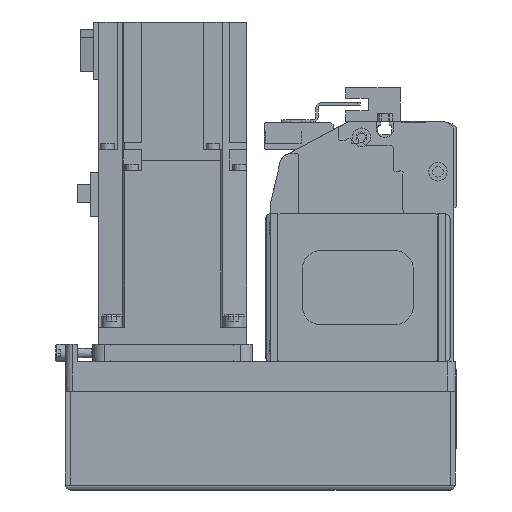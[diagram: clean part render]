
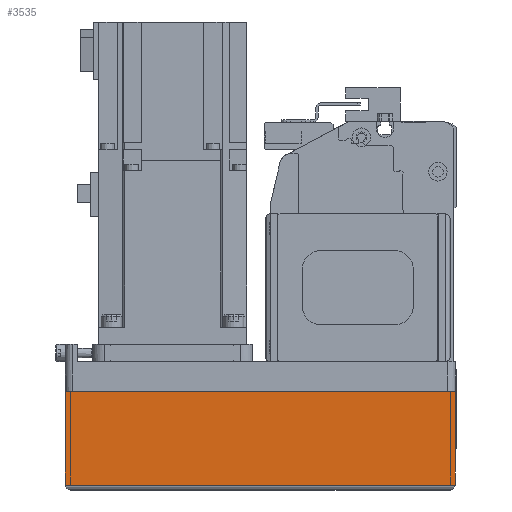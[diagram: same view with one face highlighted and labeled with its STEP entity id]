
A CAD part, left-side view. The second image highlights one B-rep face of the part: STEP entity #3535.
In plain terms, the highlighted planar face has unit normal (-1, 0, 0) as drawn and (0, -1, 0) by its records, which use the part's own axes.
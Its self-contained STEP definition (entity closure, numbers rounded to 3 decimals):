
#3535 = ADVANCED_FACE( '', ( #7414 ), #7415, .T. );
#7414 = FACE_OUTER_BOUND( '', #11279, .T. );
#7415 = PLANE( '', #11280 );
#11279 = EDGE_LOOP( '', ( #21112, #21113, #21114, #21115 ) );
#11280 = AXIS2_PLACEMENT_3D( '', #21116, #21117, #21118 );
#21112 = ORIENTED_EDGE( '', *, *, #24790, .F. );
#21113 = ORIENTED_EDGE( '', *, *, #24498, .F. );
#21114 = ORIENTED_EDGE( '', *, *, #22188, .T. );
#21115 = ORIENTED_EDGE( '', *, *, #25144, .T. );
#21116 = CARTESIAN_POINT( '', ( -158., -39., -12.1 ) );
#21117 = DIRECTION( '', ( 0., -1., 0. ) );
#21118 = DIRECTION( '', ( 0., 0., -1. ) );
#22188 = EDGE_CURVE( '', #26692, #26696, #26698, .T. );
#24498 = EDGE_CURVE( '', #26692, #25776, #30149, .T. );
#24790 = EDGE_CURVE( '', #25776, #28798, #30492, .T. );
#25144 = EDGE_CURVE( '', #26696, #28798, #30876, .T. );
#25776 = VERTEX_POINT( '', #31800 );
#26692 = VERTEX_POINT( '', #33395 );
#26696 = VERTEX_POINT( '', #33401 );
#26698 = LINE( '', #33404, #33405 );
#28798 = VERTEX_POINT( '', #36883 );
#30149 = LINE( '', #39135, #39136 );
#30492 = LINE( '', #39617, #39618 );
#30876 = LINE( '', #40123, #40124 );
#31800 = CARTESIAN_POINT( '', ( 0., -39., -12.1 ) );
#33395 = CARTESIAN_POINT( '', ( -158., -39., -12.1 ) );
#33401 = CARTESIAN_POINT( '', ( -158., -39., -50. ) );
#33404 = CARTESIAN_POINT( '', ( -158., -39., -12.1 ) );
#33405 = VECTOR( '', #41354, 1000. );
#36883 = CARTESIAN_POINT( '', ( 0., -39., -50. ) );
#39135 = CARTESIAN_POINT( '', ( -158., -39., -12.1 ) );
#39136 = VECTOR( '', #44044, 1000. );
#39617 = CARTESIAN_POINT( '', ( 0., -39., -12.1 ) );
#39618 = VECTOR( '', #44294, 1000. );
#40123 = CARTESIAN_POINT( '', ( -158., -39., -50. ) );
#40124 = VECTOR( '', #44499, 1000. );
#41354 = DIRECTION( '', ( 0., 0., -1. ) );
#44044 = DIRECTION( '', ( 1., 0., 0. ) );
#44294 = DIRECTION( '', ( 0., 0., -1. ) );
#44499 = DIRECTION( '', ( 1., 0., 0. ) );
